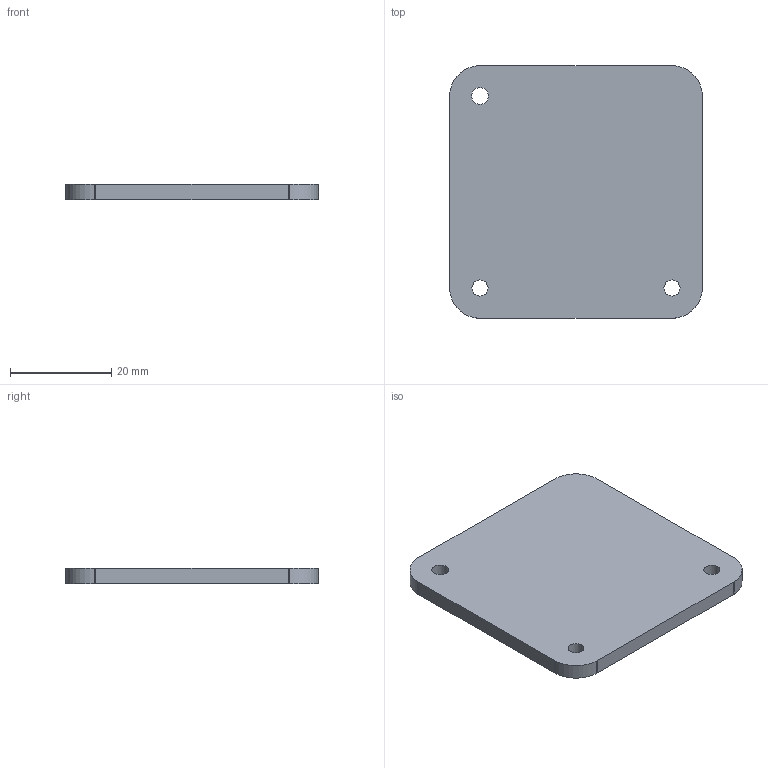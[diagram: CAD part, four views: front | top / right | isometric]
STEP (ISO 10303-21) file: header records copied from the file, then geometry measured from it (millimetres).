
FILE_DESCRIPTION(/* description */ ('STEP AP242 Edition 2','CAx-IF Rec.Pracs.---Representation and Presentation of Product Manufacturing Information (PMI)---4.0---2014-10-13','CAx-IF Rec.Pracs.---3D Tessellated Geometry---0.4---2014-09-14','2;1','CAx-IF Rec.Pracs.---User Defined Attributes---1.5---2016-08-15'),/* implementation_level */ '2;1');
FILE_NAME(/* name */ 'v2_assembly - v2_lid (1)',/* time_stamp */ '2026-05-19T16:26:09Z',/* author */ (''),/* organization */ (''),/* preprocessor_version */ 'ST-DEVELOPER v20',/* originating_system */ 'ONSHAPE BY PTC INC, 1.215',/* authorisation */ ' ');
FILE_SCHEMA (('AP242_MANAGED_MODEL_BASED_3D_ENGINEERING_MIM_LF { 1 0 10303 442 3 1 4 }'));
Length unit declared in the file: metre
Products named in the file (1): v2_lid
Bounding box: 50 x 50 x 3 mm (x, y, z)
Volume: 7334.4 mm3; surface area: 5549.7 mm2
Topology: 1 solids, 1 shells, 21 faces, 57 edges, 38 vertices
Faces by surface type: plane 14, cylinder 7
Full cylindrical faces by diameter (mm): 3.175 x2, 3.3 x1
Entity records: 686 total; most frequent: CARTESIAN_POINT 114, DIRECTION 112, ORIENTED_EDGE 108, EDGE_CURVE 54, LINE 40, VECTOR 40, VERTEX_POINT 38, AXIS2_PLACEMENT_3D 36
